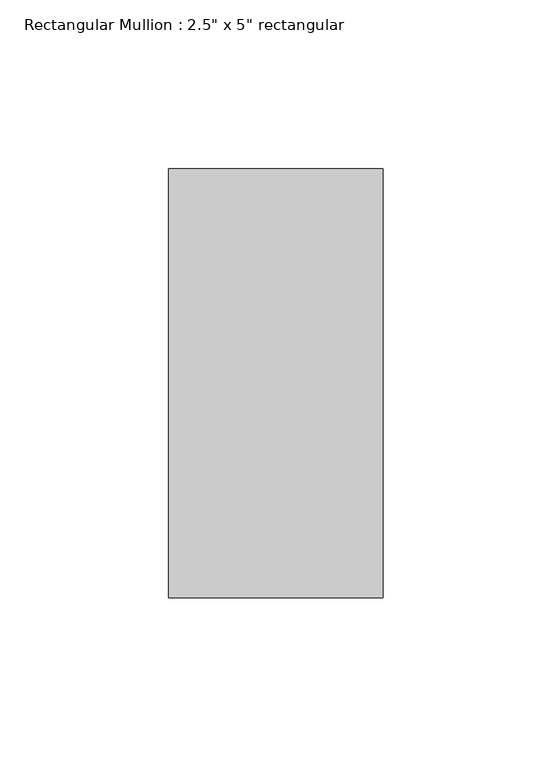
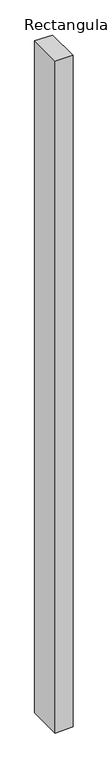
"""IFC4 building model written with IfcOpenShell, lengths in millimetres: member geometry."""

from ifc_helpers import new_model, si_unit, frame, origin, place, context, project, spatial, polyline, outline, extrude, source, transform, mapped, element, save


def member_d1924ed8(model_context):
    return source(origin(), model_context, "Body", "SweptSolid", [
        extrude(outline(polyline([(0.0, 0.0), (0.6924857, -63.5), (-2543.5831675, -63.5), (-2542.3182714, 0.0), (0.0, 0.0)])), frame((0.0, -63.5, 0.0), z_axis=(0.0, 1.0, 0.0), x_axis=(0.0, 0.0, 1.0)), (0.0, 0.0, 1.0), 127.0),
    ])


if __name__ == "__main__":
    model = new_model("IFC4")
    model_context = context("Model", 3, world=origin())
    ifc_project = project(units=[si_unit("LENGTHUNIT", "METRE", prefix="MILLI")], contexts=[model_context])
    site = spatial("IfcSite", under=ifc_project)
    building = spatial("IfcBuilding", under=site)
    placement = place(None, origin())
    member_shape = member_d1924ed8(model_context)
    element("IfcMember", 1, ObjectType="Rectangular Mullion : 2.5\" x 5\" rectangular", at=placement, inside=building, context=model_context, shape_type="MappedRepresentation", body=[
        mapped(member_shape, transform((0.0, 0.0, 0.0), x_axis=(1.0, 0.0, 0.0), y_axis=(0.0, 1.0, 0.0), z_axis=(0.0, 0.0, 1.0))),
    ])
    save(model, "model.ifc")
